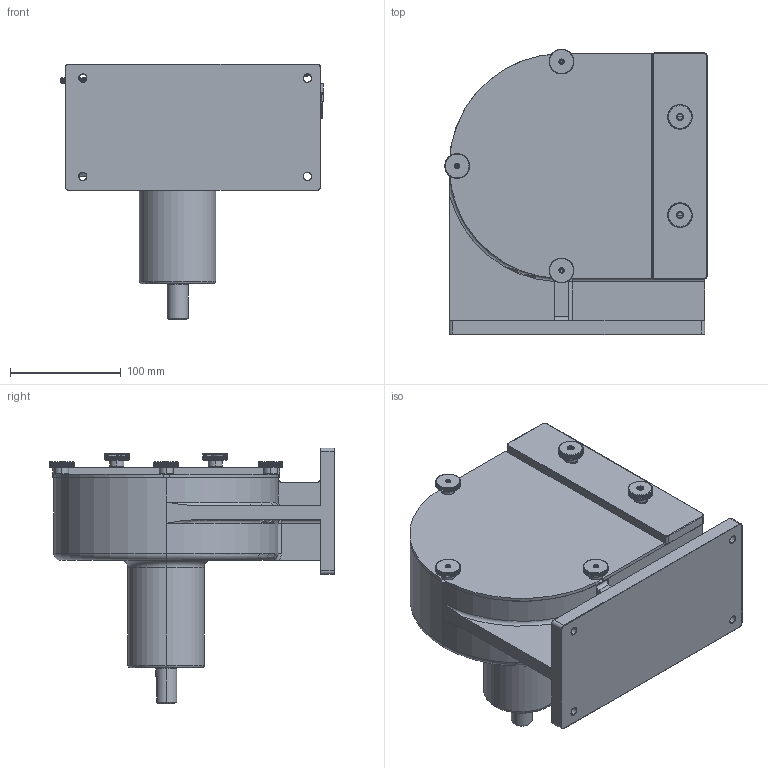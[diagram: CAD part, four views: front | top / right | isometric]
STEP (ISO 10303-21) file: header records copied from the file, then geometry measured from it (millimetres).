
FILE_DESCRIPTION (( 'STEP AP203' ), '1' );
FILE_NAME ('750-PHO.STEP', '2012-05-16T18:38:49', ( '' ), ( '' ), 'SwSTEP 2.0', 'SolidWorks 2012', '' );
FILE_SCHEMA (( 'CONFIG_CONTROL_DESIGN' ));
Length unit declared in the file: inch
Products named in the file (1): 750-PHO
Bounding box: 237.31 x 257.93 x 231.41 mm (x, y, z)
Surface area: 328728.5 mm2 (no closed solid volume)
Topology: 0 solids, 18 shells, 1529 faces, 5678 edges, 3841 vertices
Faces by surface type: cylinder 1279, plane 99, cone 71, torus 43, bspline 35, sphere 2
Entity records: 148252 total; most frequent: CARTESIAN_POINT 104363, ORIENTED_EDGE 9524, DIRECTION 8025, EDGE_CURVE 5675, VERTEX_POINT 3841, AXIS2_PLACEMENT_3D 3028, B_SPLINE_CURVE_WITH_KNOTS 2060, VECTOR 1969
